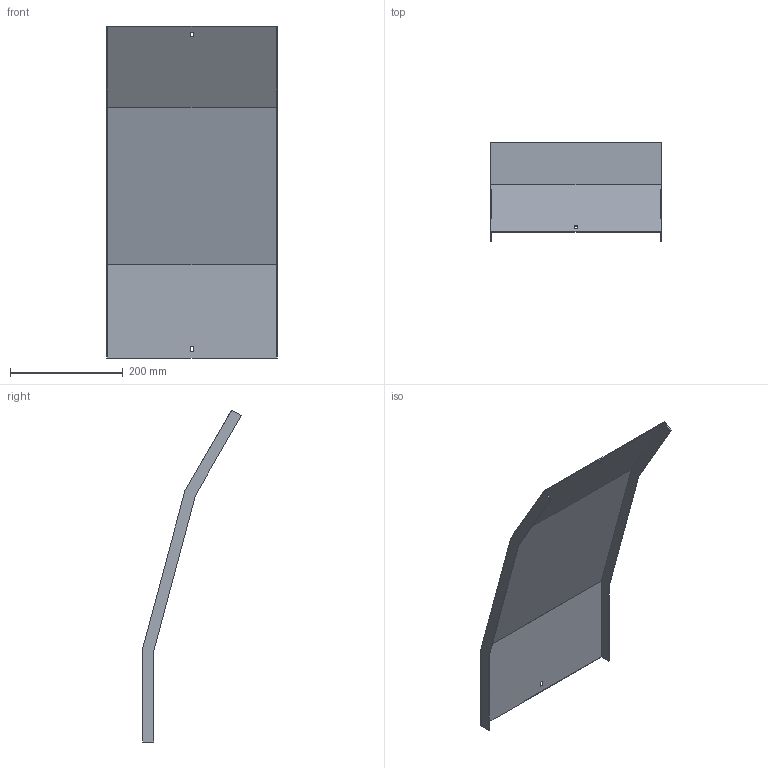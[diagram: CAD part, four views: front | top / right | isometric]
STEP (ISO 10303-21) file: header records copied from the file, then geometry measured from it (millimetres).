
FILE_DESCRIPTION (( 'STEP AP214' ), '1' );
FILE_NAME ('35N5D300.step', '2025-02-21T10:29:04', ( '' ), ( '' ), 'SwSTEP 2.0', 'SolidWorks 2023', '' );
FILE_SCHEMA (( 'AUTOMOTIVE_DESIGN' ));
Length unit declared in the file: millimetre
Products named in the file (1): 35N5D300
Bounding box: 303 x 175.26 x 589.45 mm (x, y, z)
Volume: 316312.2 mm3; surface area: 424696.8 mm2
Topology: 1 solids, 1 shells, 26 faces, 72 edges, 48 vertices
Faces by surface type: plane 26
Entity records: 847 total; most frequent: CARTESIAN_POINT 147, ORIENTED_EDGE 144, DIRECTION 126, VECTOR 72, EDGE_CURVE 72, LINE 72, VERTEX_POINT 48, EDGE_LOOP 30
